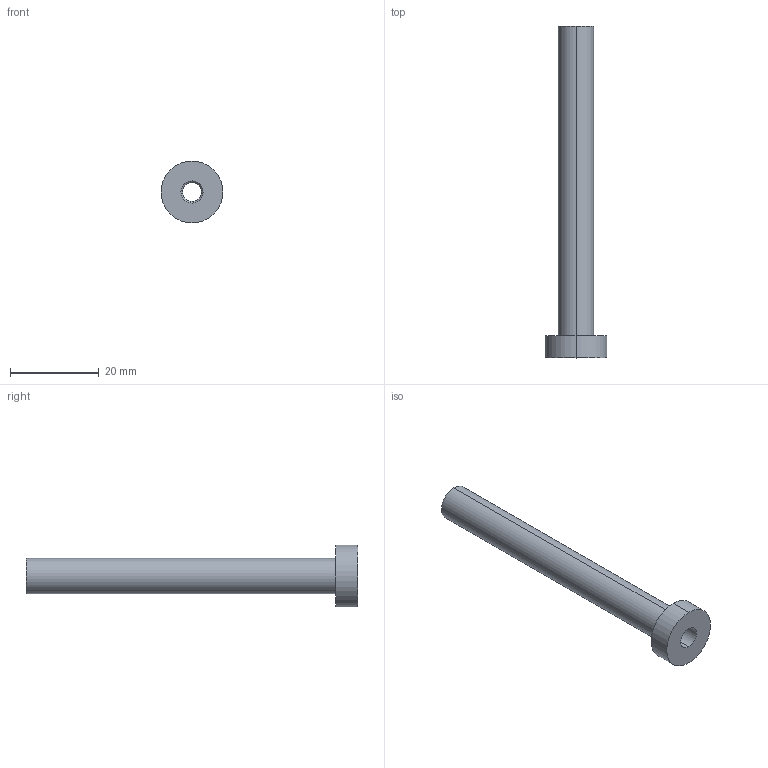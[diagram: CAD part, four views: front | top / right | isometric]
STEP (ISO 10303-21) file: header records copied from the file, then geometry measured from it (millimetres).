
FILE_DESCRIPTION (( 'STEP AP214' ), '1' );
FILE_NAME ('ET-ETN-4,2x75.STEP', '2019-12-16T15:08:07', ( 'August' ), ( '' ), 'SwSTEP 2.0', 'SolidWorks 2018', '' );
FILE_SCHEMA (( 'AUTOMOTIVE_DESIGN' ));
Length unit declared in the file: millimetre
Products named in the file (1): ET-ETN-4,2x75
Bounding box: 14 x 75 x 14 mm (x, y, z)
Volume: 3077 mm3; surface area: 3320.5 mm2
Topology: 1 solids, 1 shells, 13 faces, 26 edges, 16 vertices
Faces by surface type: cylinder 8, plane 3, cone 2
Entity records: 382 total; most frequent: DIRECTION 70, CARTESIAN_POINT 56, ORIENTED_EDGE 52, AXIS2_PLACEMENT_3D 30, EDGE_CURVE 26, CIRCLE 16, VERTEX_POINT 16, EDGE_LOOP 16
